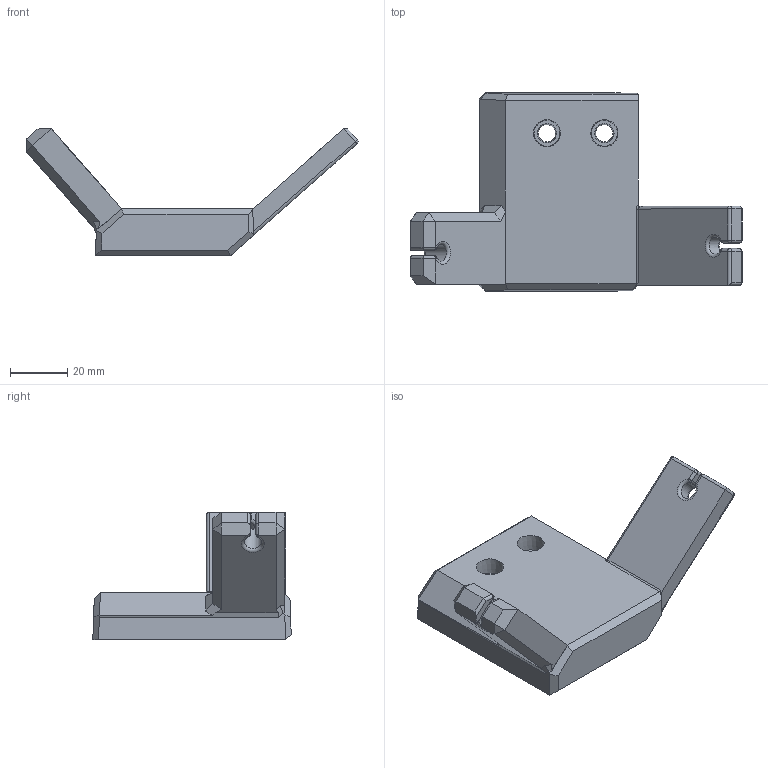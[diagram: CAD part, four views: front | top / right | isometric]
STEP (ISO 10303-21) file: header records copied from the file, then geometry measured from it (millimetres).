
FILE_DESCRIPTION(/* description */ ('STEP AP242','CAx-IF Rec.Pracs.---Representation and Presentation of Product Manufacturing Information (PMI)---4.0---2014-10-13','CAx-IF Rec.Pracs.---3D Tessellated Geometry---0.4---2014-09-14','2;1'),/* implementation_level */ '2;1');
FILE_NAME(/* name */ '647b83255cf54f6c7766454f',/* time_stamp */ '2023-06-03T18:15:02Z',/* author */ (''),/* organization */ (''),/* preprocessor_version */ 'ST-DEVELOPER v19.4',/* originating_system */ ' ',/* authorisation */ ' ');
FILE_SCHEMA (('AP242_MANAGED_MODEL_BASED_3D_ENGINEERING_MIM_LF { 1 0 10303 442 1 1 4 }'));
Length unit declared in the file: metre
Products named in the file (1): JXHSV06-02006-d Left Z-axis guide rod fixing block
Bounding box: 115.6 x 69.08 x 44.53 mm (x, y, z)
Volume: 50815.5 mm3; surface area: 28498.2 mm2
Topology: 1 solids, 3 shells, 386 faces, 1018 edges, 644 vertices
Faces by surface type: plane 257, cylinder 41, bspline 33, cone 31, sphere 15, torus 9
Full cylindrical faces by diameter (mm): 8 x1
Entity records: 13002 total; most frequent: CARTESIAN_POINT 3647, ORIENTED_EDGE 1982, DIRECTION 1824, EDGE_CURVE 991, LINE 678, VECTOR 678, VERTEX_POINT 640, AXIS2_PLACEMENT_3D 573
